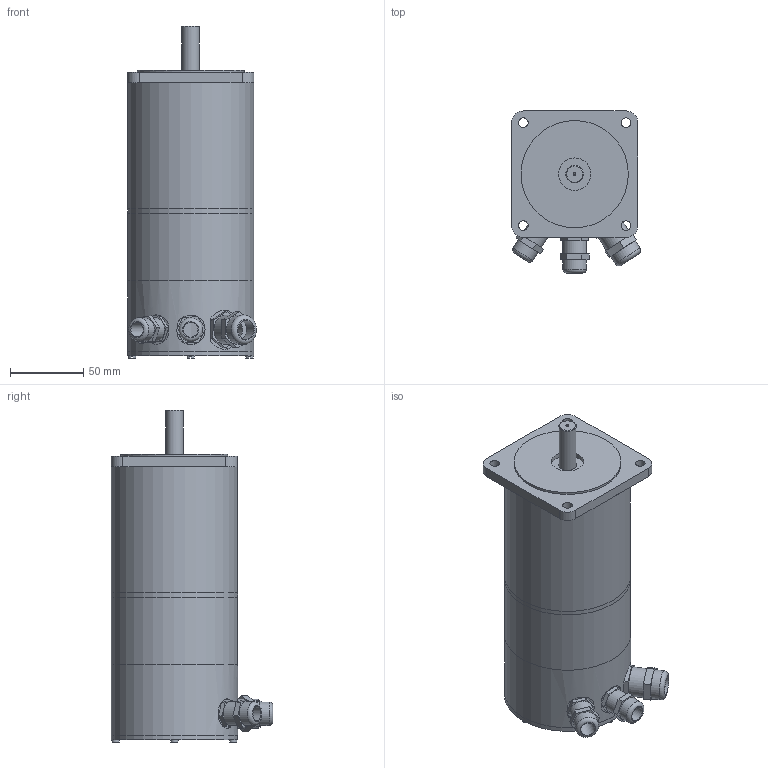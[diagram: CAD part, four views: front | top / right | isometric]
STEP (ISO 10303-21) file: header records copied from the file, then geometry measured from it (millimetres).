
FILE_DESCRIPTION((''),'2;1');
FILE_NAME('C:\Users\Reinhard\Documents\Inventor\Testschrittmotor\SM88\SM88.2-BH200-KV.stp','2012-11-12T20:25:14',('Reinhard'),(''),'Autodesk Inventor 2012','Autodesk Inventor 2012','');
FILE_SCHEMA(('CONFIG_CONTROL_DESIGN'));
Length unit declared in the file: millimetre
Products named in the file (1): SM88
Bounding box: 87.8 x 110 x 226 mm (x, y, z)
Volume: 223380.6 mm3; surface area: 144544.7 mm2
Topology: 2 solids, 3 shells, 166 faces, 378 edges, 248 vertices
Faces by surface type: plane 106, cylinder 55, torus 3, cone 2
Full cylindrical faces by diameter (mm): 2 x1, 5 x4, 6.6 x4, 10 x2, 12 x4, 13 x2, 15 x1, 16 x4, 18.376 x1, 20 x3, 22 x1, 73 x1, 78 x2, 82 x2, 86 x5
Entity records: 4581 total; most frequent: CARTESIAN_POINT 938, DIRECTION 750, ORIENTED_EDGE 652, EDGE_CURVE 326, AXIS2_PLACEMENT_3D 280, EDGE_LOOP 254, VERTEX_POINT 238, VECTOR 190
